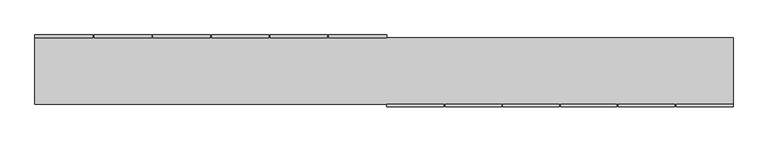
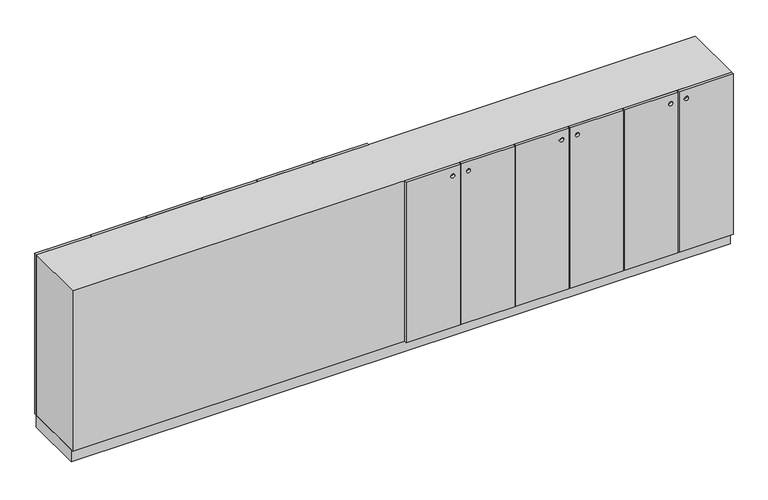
"""IFC4 building model written with IfcOpenShell, lengths in millimetres: furniture geometry, MUEBLE_EQ-10-11 : MUEBLE_EQ-10-11."""

from ifc_helpers import new_model, si_unit, point, frame, frame_2d, origin, origin_with_axes, place, context, project, spatial, polyline, circle_curve, trimmed, segment, composite_curve, outline, extrude, faceted_brep, source, transform, mapped, element, save


def furniture_628cf03d(model_context):
    return source(origin(), model_context, "Body", "SolidModel", [
        extrude(outline(polyline([(-845.2996736, 20.0), (-845.2996736, 480.0), (4204.7003264, 480.0), (4204.7003264, 20.0), (-845.2996736, 20.0)])), origin_with_axes(), (0.0, 0.0, 1.0), 100.0),
        extrude(outline(polyline([(1400.0, 3782.2003264), (1400.0, 3374.7003264), (100.0, 3374.7003264), (100.0, 3782.2003264), (1400.0, 3782.2003264)]), holes=[composite_curve([segment(trimmed(circle_curve(frame_2d((1325.0, 3727.2003264)), 15.0), [point((1325.0, 3712.2003264))], [point((1325.0, 3742.2003264))], True, "CARTESIAN"), True, "CONTINUOUS"), segment(trimmed(circle_curve(frame_2d((1325.0, 3727.2003264)), 15.0), [point((1325.0, 3742.2003264))], [point((1325.0, 3712.2003264))], True, "CARTESIAN"), True, "CONTINUOUS")], self_intersect=False)]), frame((0.0, -20.0, 0.0), z_axis=(0.0, 1.0, 0.0), x_axis=(0.0, 0.0, 1.0)), (0.0, 0.0, 1.0), 20.0),
        extrude(outline(polyline([(1400.0, 3364.7003264), (1400.0, 2957.2003264), (100.0, 2957.2003264), (100.0, 3364.7003264), (1400.0, 3364.7003264)]), holes=[composite_curve([segment(trimmed(circle_curve(frame_2d((1325.0, 3012.2003264)), 15.0), [point((1325.0, 2997.2003264))], [point((1325.0, 3027.2003264))], True, "CARTESIAN"), True, "CONTINUOUS"), segment(trimmed(circle_curve(frame_2d((1325.0, 3012.2003264)), 15.0), [point((1325.0, 3027.2003264))], [point((1325.0, 2997.2003264))], True, "CARTESIAN"), True, "CONTINUOUS")], self_intersect=False)]), frame((0.0, -20.0, 0.0), z_axis=(0.0, 1.0, 0.0), x_axis=(0.0, 0.0, 1.0)), (0.0, 0.0, 1.0), 20.0),
        extrude(outline(polyline([(1400.0, 2112.2003264), (1400.0, 1699.7003264), (100.0, 1699.7003264), (100.0, 2112.2003264), (1400.0, 2112.2003264)]), holes=[composite_curve([segment(trimmed(circle_curve(frame_2d((1325.0, 2057.2003264)), 15.0), [point((1325.0, 2042.2003264))], [point((1325.0, 2072.2003264))], True, "CARTESIAN"), True, "CONTINUOUS"), segment(trimmed(circle_curve(frame_2d((1325.0, 2057.2003264)), 15.0), [point((1325.0, 2072.2003264))], [point((1325.0, 2042.2003264))], True, "CARTESIAN"), True, "CONTINUOUS")], self_intersect=False)]), frame((0.0, -20.0, 0.0), z_axis=(0.0, 1.0, 0.0), x_axis=(0.0, 0.0, 1.0)), (0.0, 0.0, 1.0), 20.0),
        extrude(outline(polyline([(100.0, 2539.7003264), (100.0, 2947.2003264), (1400.0, 2947.2003264), (1400.0, 2539.7003264), (100.0, 2539.7003264)]), holes=[composite_curve([segment(trimmed(circle_curve(frame_2d((1325.0, 2892.2003264)), 15.0), [point((1325.0, 2877.2003264))], [point((1325.0, 2907.2003264))], True, "CARTESIAN"), True, "CONTINUOUS"), segment(trimmed(circle_curve(frame_2d((1325.0, 2892.2003264)), 15.0), [point((1325.0, 2907.2003264))], [point((1325.0, 2877.2003264))], True, "CARTESIAN"), True, "CONTINUOUS")], self_intersect=False)]), frame((0.0, -20.0, 0.0), z_axis=(0.0, 1.0, 0.0), x_axis=(0.0, 0.0, 1.0)), (0.0, 0.0, 1.0), 20.0),
        extrude(outline(polyline([(1400.0, 2529.7003264), (1400.0, 2122.2003264), (100.0, 2122.2003264), (100.0, 2529.7003264), (1400.0, 2529.7003264)]), holes=[composite_curve([segment(trimmed(circle_curve(frame_2d((1325.0, 2177.2003264)), 15.0), [point((1325.0, 2162.2003264))], [point((1325.0, 2192.2003264))], True, "CARTESIAN"), True, "CONTINUOUS"), segment(trimmed(circle_curve(frame_2d((1325.0, 2177.2003264)), 15.0), [point((1325.0, 2192.2003264))], [point((1325.0, 2162.2003264))], True, "CARTESIAN"), True, "CONTINUOUS")], self_intersect=False)]), frame((0.0, -20.0, 0.0), z_axis=(0.0, 1.0, 0.0), x_axis=(0.0, 0.0, 1.0)), (0.0, 0.0, 1.0), 20.0),
        extrude(outline(polyline([(1400.0, 3792.2003264), (100.0, 3792.2003264), (100.0, 4204.7003264), (1400.0, 4204.7003264), (1400.0, 3792.2003264)]), holes=[composite_curve([segment(trimmed(circle_curve(frame_2d((1325.0, 3847.2003264)), 15.0), [point((1325.0, 3832.2003264))], [point((1325.0, 3862.2003264))], True, "CARTESIAN"), True, "CONTINUOUS"), segment(trimmed(circle_curve(frame_2d((1325.0, 3847.2003264)), 15.0), [point((1325.0, 3862.2003264))], [point((1325.0, 3832.2003264))], True, "CARTESIAN"), True, "CONTINUOUS")], self_intersect=False)]), frame((0.0, -20.0, 0.0), z_axis=(0.0, 1.0, 0.0), x_axis=(0.0, 0.0, 1.0)), (0.0, 0.0, 1.0), 20.0),
        extrude(outline(polyline([(1400.0, -426.1330069), (1400.0, -845.2996736), (100.0, -845.2996736), (100.0, -426.1330069), (1400.0, -426.1330069)]), holes=[composite_curve([segment(trimmed(circle_curve(frame_2d((1325.0, -481.1330069)), 15.0), [point((1325.0, -496.1330069))], [point((1325.0, -466.1330069))], True, "CARTESIAN"), True, "CONTINUOUS"), segment(trimmed(circle_curve(frame_2d((1325.0, -481.1330069)), 15.0), [point((1325.0, -466.1330069))], [point((1325.0, -496.1330069))], True, "CARTESIAN"), True, "CONTINUOUS")], self_intersect=False)]), frame((0.0, 480.0, 0.0), z_axis=(0.0, 1.0, 0.0), x_axis=(0.0, 0.0, 1.0)), (0.0, 0.0, 1.0), 20.0),
        extrude(outline(polyline([(1400.0, -1.9663402), (1400.0, -416.1330069), (100.0, -416.1330069), (100.0, -1.9663402), (1400.0, -1.9663402)]), holes=[composite_curve([segment(trimmed(circle_curve(frame_2d((1325.0, -361.1330069)), 15.0), [point((1325.0, -376.1330069))], [point((1325.0, -346.1330069))], True, "CARTESIAN"), True, "CONTINUOUS"), segment(trimmed(circle_curve(frame_2d((1325.0, -361.1330069)), 15.0), [point((1325.0, -346.1330069))], [point((1325.0, -376.1330069))], True, "CARTESIAN"), True, "CONTINUOUS")], self_intersect=False)]), frame((0.0, 480.0, 0.0), z_axis=(0.0, 1.0, 0.0), x_axis=(0.0, 0.0, 1.0)), (0.0, 0.0, 1.0), 20.0),
        extrude(outline(polyline([(1400.0, 422.2003264), (1400.0, 8.0336598), (100.0, 8.0336598), (100.0, 422.2003264), (1400.0, 422.2003264)]), holes=[composite_curve([segment(trimmed(circle_curve(frame_2d((1325.0, 367.2003264)), 15.0), [point((1325.0, 352.2003264))], [point((1325.0, 382.2003264))], True, "CARTESIAN"), True, "CONTINUOUS"), segment(trimmed(circle_curve(frame_2d((1325.0, 367.2003264)), 15.0), [point((1325.0, 382.2003264))], [point((1325.0, 352.2003264))], True, "CARTESIAN"), True, "CONTINUOUS")], self_intersect=False)]), frame((0.0, 480.0, 0.0), z_axis=(0.0, 1.0, 0.0), x_axis=(0.0, 0.0, 1.0)), (0.0, 0.0, 1.0), 20.0),
        extrude(outline(polyline([(1400.0, 846.3669931), (1400.0, 432.2003264), (100.0, 432.2003264), (100.0, 846.3669931), (1400.0, 846.3669931)]), holes=[composite_curve([segment(trimmed(circle_curve(frame_2d((1325.0, 487.2003264)), 15.0), [point((1325.0, 472.2003264))], [point((1325.0, 502.2003264))], True, "CARTESIAN"), True, "CONTINUOUS"), segment(trimmed(circle_curve(frame_2d((1325.0, 487.2003264)), 15.0), [point((1325.0, 502.2003264))], [point((1325.0, 472.2003264))], True, "CARTESIAN"), True, "CONTINUOUS")], self_intersect=False)]), frame((0.0, 480.0, 0.0), z_axis=(0.0, 1.0, 0.0), x_axis=(0.0, 0.0, 1.0)), (0.0, 0.0, 1.0), 20.0),
        extrude(outline(polyline([(100.0, 1280.5336598), (100.0, 1699.7003264), (1400.0, 1699.7003264), (1400.0, 1280.5336598), (100.0, 1280.5336598)]), holes=[composite_curve([segment(trimmed(circle_curve(frame_2d((1325.0, 1335.5336598)), 15.0), [point((1325.0, 1320.5336598))], [point((1325.0, 1350.5336598))], True, "CARTESIAN"), True, "CONTINUOUS"), segment(trimmed(circle_curve(frame_2d((1325.0, 1335.5336598)), 15.0), [point((1325.0, 1350.5336598))], [point((1325.0, 1320.5336598))], True, "CARTESIAN"), True, "CONTINUOUS")], self_intersect=False)]), frame((0.0, 480.0, 0.0), z_axis=(0.0, 1.0, 0.0), x_axis=(0.0, 0.0, 1.0)), (0.0, 0.0, 1.0), 20.0),
        extrude(outline(polyline([(1400.0, 1270.5336598), (1400.0, 856.3669931), (100.0, 856.3669931), (100.0, 1270.5336598), (1400.0, 1270.5336598)]), holes=[composite_curve([segment(trimmed(circle_curve(frame_2d((1325.0, 1215.5336598)), 15.0), [point((1325.0, 1200.5336598))], [point((1325.0, 1230.5336598))], True, "CARTESIAN"), True, "CONTINUOUS"), segment(trimmed(circle_curve(frame_2d((1325.0, 1215.5336598)), 15.0), [point((1325.0, 1230.5336598))], [point((1325.0, 1200.5336598))], True, "CARTESIAN"), True, "CONTINUOUS")], self_intersect=False)]), frame((0.0, 480.0, 0.0), z_axis=(0.0, 1.0, 0.0), x_axis=(0.0, 0.0, 1.0)), (0.0, 0.0, 1.0), 20.0),
        faceted_brep([(4204.7003264, 0.0, 100.0), (-845.2996736, 0.0, 100.0), (-845.2996736, 480.0, 100.0), (4204.7003264, 480.0, 100.0), (4204.7003264, 0.0, 1400.0), (4204.7003264, 480.0, 1400.0), (-845.2996736, 480.0, 1400.0), (-805.2996736, 480.0, 140.0), (1659.7003264, 480.0, 140.0), (1659.7003264, 480.0, 1360.0), (-805.2996736, 480.0, 1360.0), (-845.2996736, 0.0, 1400.0), (1699.7003264, 0.0, 1360.0), (4164.7003264, 0.0, 1360.0), (4164.7003264, 0.0, 140.0), (1699.7003264, 0.0, 140.0), (1699.7003264, 460.0, 1360.0), (1699.7003264, 460.0, 140.0), (4164.7003264, 460.0, 140.0), (4164.7003264, 460.0, 1360.0), (-805.2996736, 40.0, 140.0), (-805.2996736, 40.0, 1360.0), (1659.7003264, 40.0, 1360.0), (1659.7003264, 40.0, 140.0)], [[[0, 1, 2, 3]], [[4, 0, 3, 5]], [[5, 3, 2, 6], [7, 8, 9, 10]], [[6, 2, 1, 11]], [[11, 1, 0, 4], [12, 13, 14, 15]], [[16, 12, 15, 17]], [[17, 15, 14, 18]], [[18, 14, 13, 19]], [[20, 7, 10, 21]], [[22, 9, 8, 23]], [[23, 8, 7, 20]], [[21, 22, 23, 20]], [[16, 17, 18, 19]], [[4, 5, 6, 11]], [[21, 10, 9, 22]], [[19, 13, 12, 16]]]),
    ])


if __name__ == "__main__":
    model = new_model("IFC4")
    model_context = context("Model", 3, world=origin())
    ifc_project = project(units=[si_unit("LENGTHUNIT", "METRE", prefix="MILLI")], contexts=[model_context])
    site = spatial("IfcSite", under=ifc_project)
    building = spatial("IfcBuilding", under=site)
    placement = place(None, origin())
    furniture_shape = furniture_628cf03d(model_context)
    element("IfcFurniture", 1, ObjectType="MUEBLE_EQ-10-11 : MUEBLE_EQ-10-11", at=placement, inside=building, context=model_context, shape_type="MappedRepresentation", body=[
        mapped(furniture_shape, transform((0.0, 0.0, 0.0), x_axis=(1.0, 0.0, 0.0), y_axis=(0.0, 1.0, 0.0), z_axis=(0.0, 0.0, 1.0))),
    ])
    save(model, "model.ifc")
